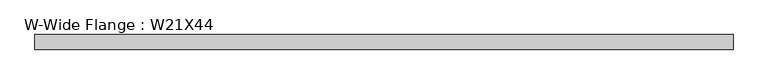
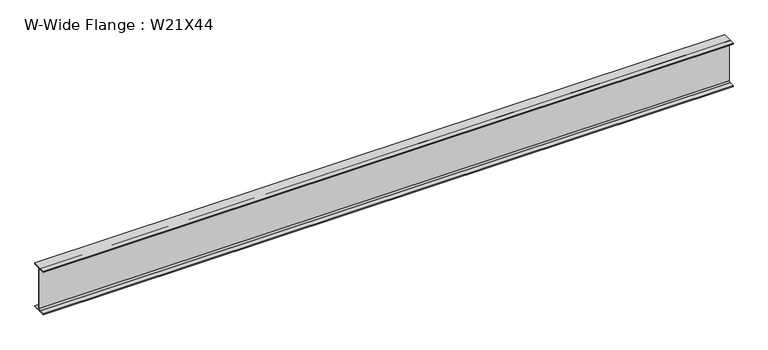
"""IFC4 building model written with IfcOpenShell, lengths in millimetres: beam geometry, W-Wide Flange : W21X44."""

from ifc_helpers import new_model, si_unit, point, frame, frame_2d, origin, place, context, project, spatial, polyline, circle_curve, trimmed, segment, composite_curve, outline, extrude, source, transform, mapped, element, save


def w_wide_flange_w21x44_476cda67(model_context):
    return source(origin(), model_context, "Body", "SweptSolid", [
        extrude(outline(composite_curve([segment(polyline([(82.55, -251.46), (82.55, -262.89), (-82.55, -262.89), (-82.55, -251.46), (-21.59, -251.46)]), True, "CONTINUOUS"), segment(trimmed(circle_curve(frame_2d((-21.59, -234.315)), 17.145), [point((-21.59, -251.46))], [point((-4.445, -234.315))], True, "CARTESIAN"), True, "CONTINUOUS"), segment(polyline([(-4.445, -234.315), (-4.445, 234.315)]), True, "CONTINUOUS"), segment(trimmed(circle_curve(frame_2d((-21.59, 234.315)), 17.145), [point((-4.445, 234.315))], [point((-21.59, 251.46))], True, "CARTESIAN"), True, "CONTINUOUS"), segment(polyline([(-21.59, 251.46), (-82.55, 251.46), (-82.55, 262.89), (82.55, 262.89), (82.55, 251.46), (21.59, 251.46)]), True, "CONTINUOUS"), segment(trimmed(circle_curve(frame_2d((21.59, 234.315)), 17.145), [point((21.59, 251.46))], [point((4.445, 234.315))], True, "CARTESIAN"), True, "CONTINUOUS"), segment(polyline([(4.445, 234.315), (4.445, -234.315)]), True, "CONTINUOUS"), segment(trimmed(circle_curve(frame_2d((21.59, -234.315)), 17.145), [point((4.445, -234.315))], [point((21.59, -251.46))], True, "CARTESIAN"), True, "CONTINUOUS"), segment(polyline([(21.59, -251.46), (82.55, -251.46)]), True, "CONTINUOUS")], self_intersect=False)), frame((-3902.8048239, 0.0, 0.0), z_axis=(1.0, 0.0, 0.0), x_axis=(0.0, 1.0, 0.0)), (0.0, 0.0, 1.0), 7866.3129601),
    ])


if __name__ == "__main__":
    model = new_model("IFC4")
    model_context = context("Model", 3, world=origin())
    ifc_project = project(units=[si_unit("LENGTHUNIT", "METRE", prefix="MILLI")], contexts=[model_context])
    site = spatial("IfcSite", under=ifc_project)
    building = spatial("IfcBuilding", under=site)
    placement = place(None, origin())
    w_wide_flange_w21x44_shape = w_wide_flange_w21x44_476cda67(model_context)
    element("IfcBeam", 1, ObjectType="W-Wide Flange : W21X44", at=placement, inside=building, context=model_context, shape_type="MappedRepresentation", body=[
        mapped(w_wide_flange_w21x44_shape, transform((0.0, 0.0, 0.0), x_axis=(1.0, 0.0, 0.0), y_axis=(0.0, 1.0, 0.0), z_axis=(0.0, 0.0, 1.0))),
    ])
    save(model, "model.ifc")
